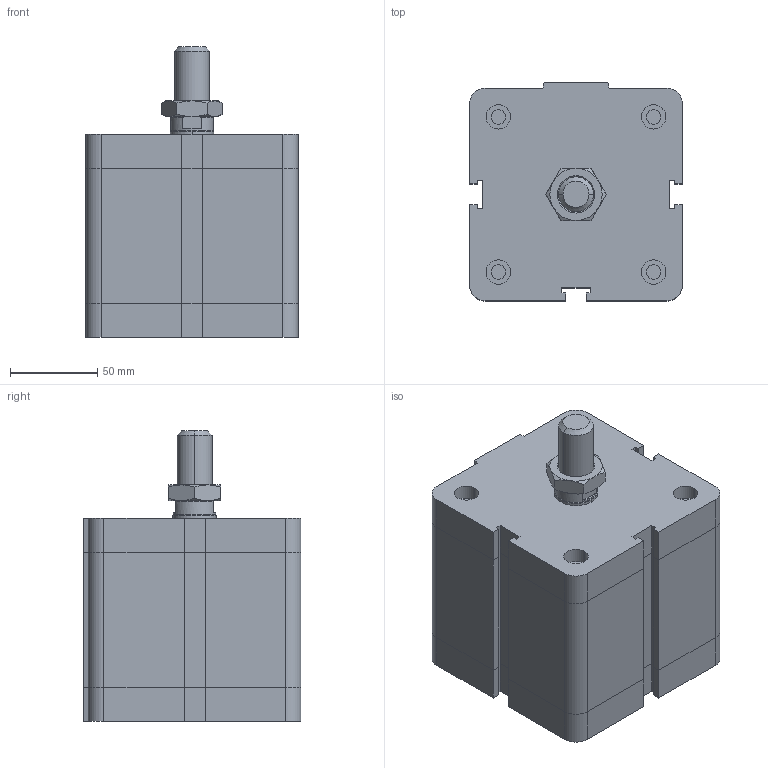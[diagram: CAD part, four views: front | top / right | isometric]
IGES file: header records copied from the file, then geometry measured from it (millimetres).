
Global section: file name: No Iges File Name specified; native system: Autodesk Inventor 2009; preprocessor: AutoDesk Inventor Iges Exporter R2009; author: rivolro1; date: 20081219.161003; units: millimetre
Bounding box: 122 x 125 x 166.5 mm (x, y, z)
Volume: 1705162.3 mm3; surface area: 117439.8 mm2
Topology: 3 solids, 3 shells, 216 faces, 472 edges, 282 vertices
Faces by surface type: plane 121, bspline 37, cylinder 20, cone 20, revolution 18
